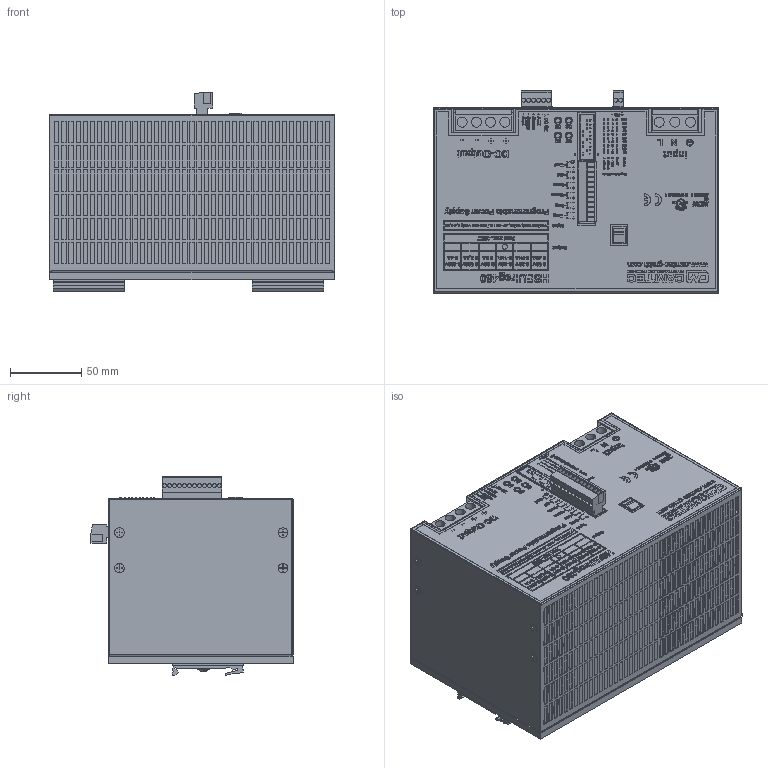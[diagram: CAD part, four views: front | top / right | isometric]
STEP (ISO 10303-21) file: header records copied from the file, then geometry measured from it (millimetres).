
FILE_DESCRIPTION( /* description */ (''), /* implementation_level */ '2;1');
FILE_NAME( /* name */ 'D:\Alle CAD Daten\CAMTEC 2017\Gehäuse HSE_ HSEUreg und HSEUIre g\Gehäuse HSEUlreg04801-50T\Baugruppe HSEUIreg04801-50T\HSEUIre g04801-50T.stp', /* time_stamp */ '2017-03-27T12:30:08+02:00', /* author */ ('RBZ'), /* organization */ (''), /* preprocessor_version */ 'ST-DEVELOPER v16.5', /* originating_system */ 'Autodesk Inventor 2017', /* authorisation */ '');
FILE_SCHEMA (('CONFIG_CONTROL_DESIGN'));
Products named in the file (3): HSEUIreg04801-50T; HSEUIreg04801-50T_1; Aufkleber HSEUIreg04801-50T
Assembly tree (2 placements, depth 2):
  HSEUIreg04801-50T
    HSEUIreg04801-50T_1
    Aufkleber HSEUIreg04801-50T
Bounding box: 200.2 x 142 x 140 mm (x, y, z)
Volume: 2650204.9 mm3; surface area: 411952.6 mm2
Topology: 552 solids, 552 shells, 10220 faces, 27120 edges, 18069 vertices
Faces by surface type: plane 6811, bspline 3226, cylinder 183
Full cylindrical faces by diameter (mm): 2.9 x20, 3.2 x7, 3.5 x2, 4 x1, 5 x13, 5.2 x2, 6 x4, 6.4 x2, 6.7 x12, 7 x7, 8 x13
Entity records: 331169 total; most frequent: CARTESIAN_POINT 95430, ORIENTED_EDGE 54008, DIRECTION 34943, EDGE_CURVE 27004, LINE 20127, VECTOR 20127, VERTEX_POINT 18036, EDGE_LOOP 11806
